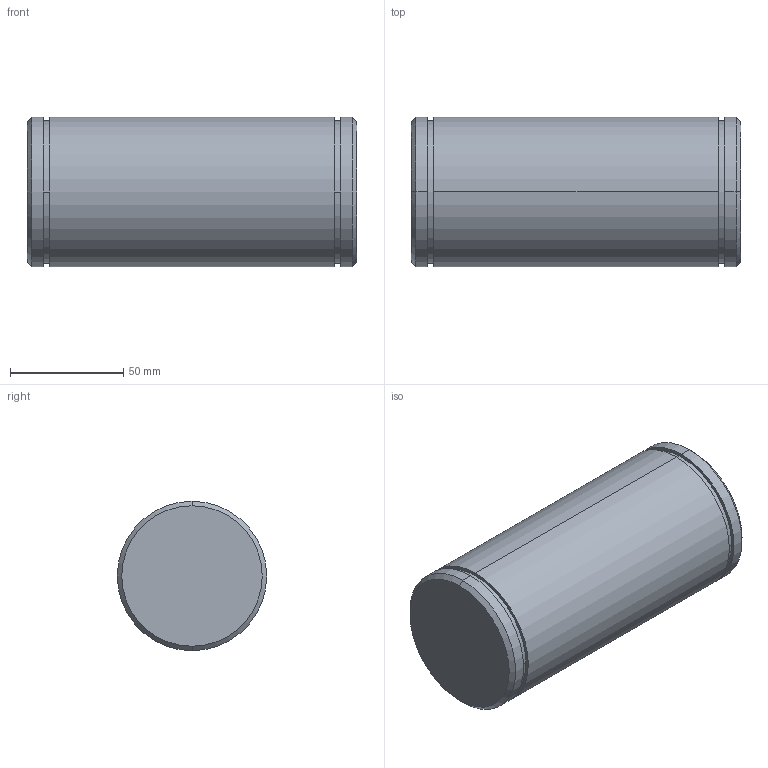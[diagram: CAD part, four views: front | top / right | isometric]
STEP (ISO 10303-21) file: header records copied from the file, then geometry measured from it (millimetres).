
FILE_DESCRIPTION (( 'STEP AP203' ), '1' );
FILE_NAME ('Bolzen Sicherungsring B M65.STEP', '2018-02-22T05:41:30', ( 'install' ), ( 'Hewlett-Packard Company' ), 'SwSTEP 2.0', 'SolidWorks 2017', '' );
FILE_SCHEMA (( 'CONFIG_CONTROL_DESIGN' ));
Length unit declared in the file: millimetre
Products named in the file (1): Bolzen Sicherungsring B M65
Bounding box: 145.4 x 66 x 66 mm (x, y, z)
Volume: 494866.1 mm3; surface area: 37655.3 mm2
Topology: 1 solids, 1 shells, 20 faces, 38 edges, 24 vertices
Faces by surface type: cylinder 10, plane 6, cone 4
Entity records: 591 total; most frequent: DIRECTION 104, CARTESIAN_POINT 83, ORIENTED_EDGE 76, AXIS2_PLACEMENT_3D 45, EDGE_CURVE 38, EDGE_LOOP 24, CIRCLE 24, VERTEX_POINT 24
